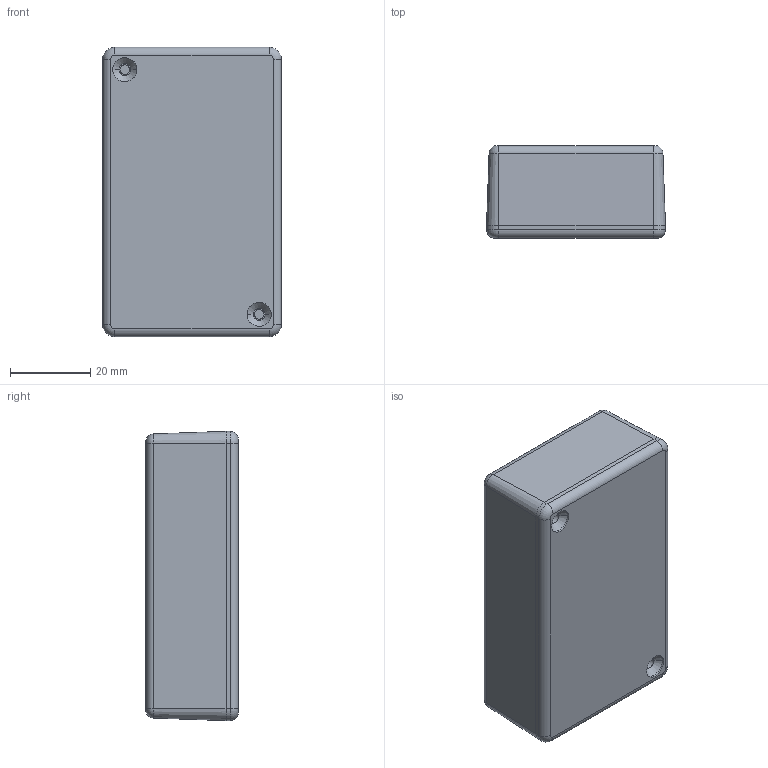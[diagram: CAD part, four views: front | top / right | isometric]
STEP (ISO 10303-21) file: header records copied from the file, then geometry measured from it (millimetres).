
FILE_DESCRIPTION (( 'STEP AP203' ), '1' );
FILE_NAME ('PH014.STEP', '2015-07-25T06:00:19', ( 'admin' ), ( 'Hewlett-Packard Company' ), 'SwSTEP 2.0', 'SolidWorks 2014', '' );
FILE_SCHEMA (( 'CONFIG_CONTROL_DESIGN' ));
Length unit declared in the file: millimetre
Products named in the file (3): PH014
Assembly tree (2 placements, depth 2):
  PH014
    PH014
    PH014
Bounding box: 44.6 x 23.05 x 72.1 mm (x, y, z)
Volume: 22537.2 mm3; surface area: 23775.7 mm2
Topology: 2 solids, 2 shells, 132 faces, 315 edges, 202 vertices
Faces by surface type: plane 59, cylinder 45, cone 20, torus 8
Entity records: 4150 total; most frequent: DIRECTION 719, CARTESIAN_POINT 654, ORIENTED_EDGE 630, EDGE_CURVE 315, AXIS2_PLACEMENT_3D 267, VERTEX_POINT 202, LINE 185, VECTOR 185
